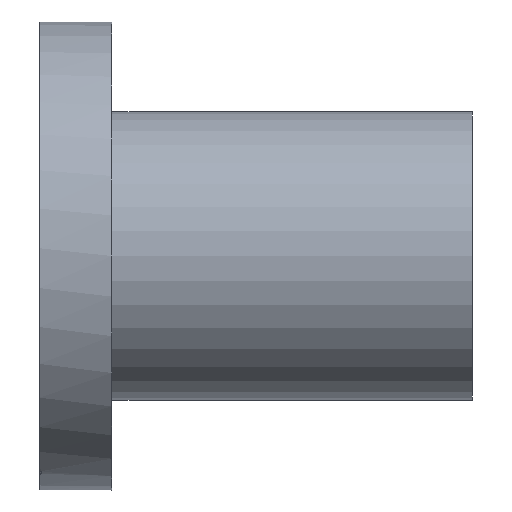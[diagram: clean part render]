
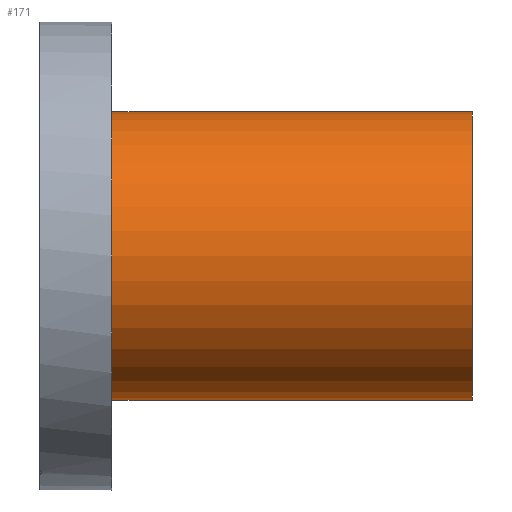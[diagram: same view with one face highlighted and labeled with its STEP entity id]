
A CAD part, front view. The second image highlights one B-rep face of the part: STEP entity #171.
In plain terms, the highlighted cylindrical face has radius 35 mm (diameter 70 mm), a full revolution.
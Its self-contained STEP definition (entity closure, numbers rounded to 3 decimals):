
#171 = ADVANCED_FACE( '', ( #343, #344 ), #345, .T. );
#343 = FACE_OUTER_BOUND( '', #495, .T. );
#344 = FACE_OUTER_BOUND( '', #496, .T. );
#345 = CYLINDRICAL_SURFACE( '', #497, 35. );
#495 = EDGE_LOOP( '', ( #670 ) );
#496 = EDGE_LOOP( '', ( #671 ) );
#497 = AXIS2_PLACEMENT_3D( '', #672, #673, #674 );
#670 = ORIENTED_EDGE( '', *, *, #713, .F. );
#671 = ORIENTED_EDGE( '', *, *, #755, .T. );
#672 = CARTESIAN_POINT( '', ( 96.9, 0., 0. ) );
#673 = DIRECTION( '', ( -1., 0., 0. ) );
#674 = DIRECTION( '', ( 0., 0., 1. ) );
#713 = EDGE_CURVE( '', #792, #792, #793, .T. );
#755 = EDGE_CURVE( '', #855, #855, #856, .T. );
#792 = VERTEX_POINT( '', #895 );
#793 = CIRCLE( '', #896, 35. );
#855 = VERTEX_POINT( '', #1012 );
#856 = CIRCLE( '', #1013, 35. );
#895 = CARTESIAN_POINT( '', ( 0., 35., 0. ) );
#896 = AXIS2_PLACEMENT_3D( '', #1054, #1055, #1056 );
#1012 = CARTESIAN_POINT( '', ( 96.9, 35., 0. ) );
#1013 = AXIS2_PLACEMENT_3D( '', #1113, #1114, #1115 );
#1054 = CARTESIAN_POINT( '', ( 0., 0., 0. ) );
#1055 = DIRECTION( '', ( -1., 0., 0. ) );
#1056 = DIRECTION( '', ( 0., 1., 0. ) );
#1113 = CARTESIAN_POINT( '', ( 96.9, 0., 0. ) );
#1114 = DIRECTION( '', ( -1., 0., 0. ) );
#1115 = DIRECTION( '', ( 0., 1., 0. ) );
